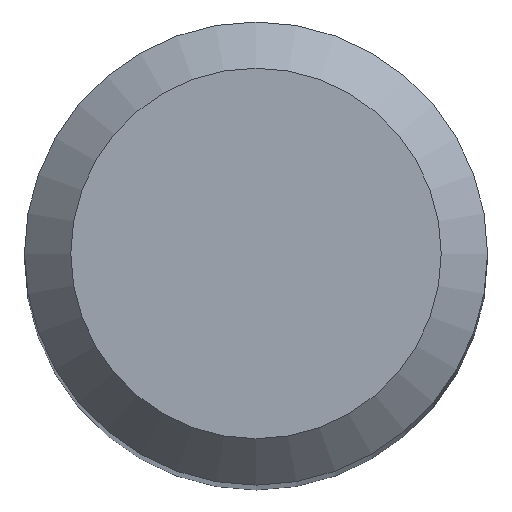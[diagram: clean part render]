
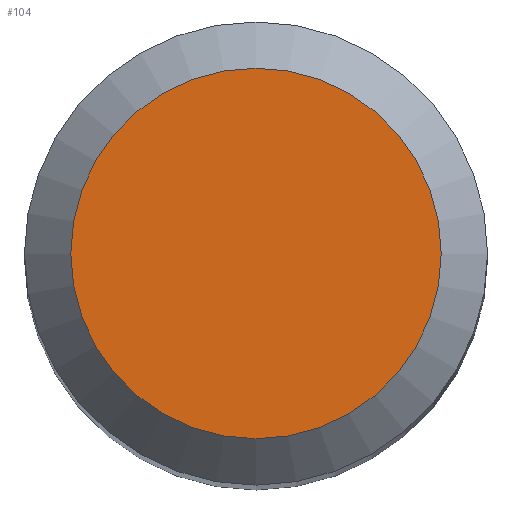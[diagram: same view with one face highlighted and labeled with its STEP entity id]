
A CAD part, top view. The second image highlights one B-rep face of the part: STEP entity #104.
In plain terms, the highlighted planar face has unit normal (0, 0, 1).
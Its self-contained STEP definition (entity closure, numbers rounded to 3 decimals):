
#88=CARTESIAN_POINT('',(3.2,0.0,110.0));
#89=DIRECTION('',(0.0,0.0,1.0));
#90=DIRECTION('',(1.0,0.0,0.0));
#91=AXIS2_PLACEMENT_3D('',#88,#89,#90);
#92=PLANE('',#91);
#93=CARTESIAN_POINT('',(-3.2,0.0,110.0));
#94=VERTEX_POINT('',#93);
#95=CARTESIAN_POINT('',(0.0,0.0,110.0));
#96=DIRECTION('',(0.0,0.0,-1.0));
#97=DIRECTION('',(-1.0,0.0,0.0));
#98=AXIS2_PLACEMENT_3D('',#95,#96,#97);
#99=CIRCLE('',#98,3.2);
#100=EDGE_CURVE('',#94,#94,#99,.T.);
#101=ORIENTED_EDGE('',*,*,#100,.F.);
#102=EDGE_LOOP('',(#101));
#103=FACE_OUTER_BOUND('',#102,.T.);
#104=ADVANCED_FACE('',(#103),#92,.T.);
